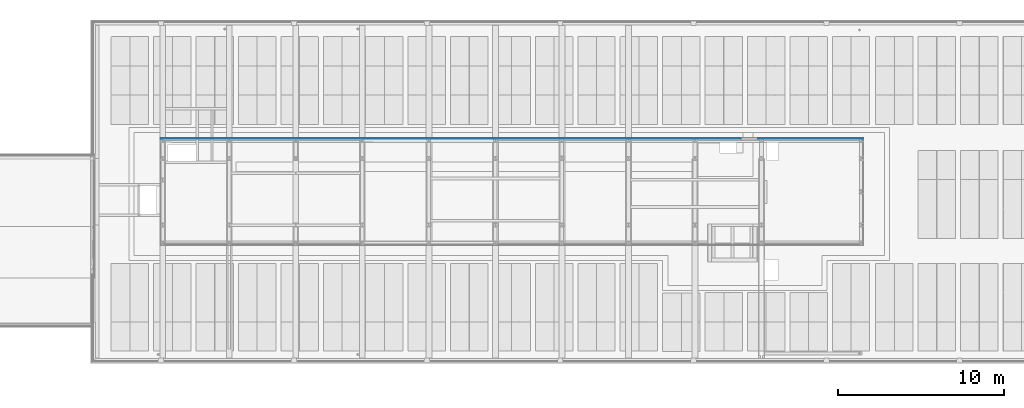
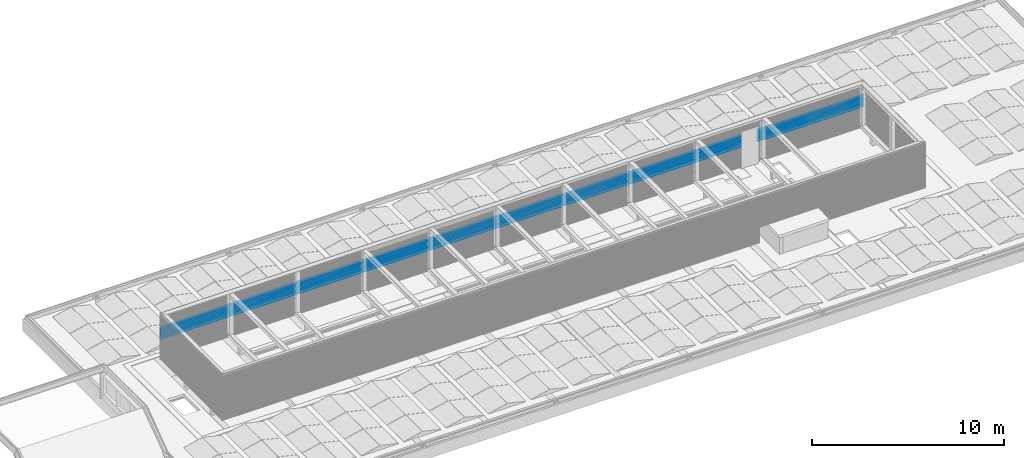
# One storey, part 47 of 63: 9 building element parts, 1 opening, 1 element without a shape of its own.
"""IFC2X3 building model written with IfcOpenShell, lengths in millimetres."""

from ifc_helpers import new_model, entity, si_unit, converted_unit, derived_unit, money_unit, direction, frame, origin_with_axes, place, context, subcontext, project, spatial, faceted_brep, material, type_object, element, aggregate, save


model = new_model("IFC2X3")

# Units and contexts
model_context = context("Model", 3, precision=0.01, world=origin_with_axes(), true_north=direction((0.0, 1.0)))
body_context = subcontext(model_context, "Body", "Model", "MODEL_VIEW")
ifc_project = project(units=[si_unit("LENGTHUNIT", "METRE", prefix="MILLI"), si_unit("AREAUNIT", "SQUARE_METRE"), si_unit("VOLUMEUNIT", "CUBIC_METRE"), converted_unit("PLANEANGLEUNIT", "DEGREE", entity("IfcPlaneAngleMeasure", 0.0174532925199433), si_unit("PLANEANGLEUNIT", "RADIAN"), dimensions=[0, 0, 0, 0, 0, 0, 0]), money_unit("EUR"), converted_unit("TIMEUNIT", "Year", entity("IfcTimeMeasure", 31557600.0), si_unit("TIMEUNIT", "SECOND"), dimensions=[0, 0, 1, 0, 0, 0, 0]), si_unit("MASSUNIT", "GRAM", prefix="KILO"), si_unit("THERMODYNAMICTEMPERATUREUNIT", "DEGREE_CELSIUS"), si_unit("LUMINOUSINTENSITYUNIT", "LUMEN"), si_unit("ENERGYUNIT", "JOULE", prefix="MEGA"), derived_unit("THERMALCONDUCTANCEUNIT", [(si_unit("POWERUNIT", "WATT"), 1), (si_unit("LENGTHUNIT", "METRE"), -1), (si_unit("THERMODYNAMICTEMPERATUREUNIT", "KELVIN"), -1)]), derived_unit("SPECIFICHEATCAPACITYUNIT", [(si_unit("ENERGYUNIT", "JOULE"), 1), (si_unit("MASSUNIT", "GRAM", prefix="KILO"), -1), (si_unit("THERMODYNAMICTEMPERATUREUNIT", "KELVIN"), -1)]), derived_unit("MASSDENSITYUNIT", [(si_unit("MASSUNIT", "GRAM", prefix="KILO"), 1), (si_unit("VOLUMEUNIT", "CUBIC_METRE"), -1)])], contexts=[model_context])

# Site, building, storey
site_placement = place(None, origin_with_axes())
site = spatial("IfcSite", under=ifc_project, at=site_placement, Name="<site naam>", CompositionType="ELEMENT")
building_placement = place(site_placement, origin_with_axes())
building = spatial("IfcBuilding", under=site, at=building_placement, Name="<Naam gebouw>", CompositionType="ELEMENT")
storey_placement = place(building_placement, frame((0.0, 0.0, 12770.0), z_axis=(0.0, 0.0, 1.0), x_axis=(1.0, 0.0, 0.0)))
storey = spatial("IfcBuildingStorey", under=building, at=storey_placement, Name="04 4e verdieping", CompositionType="ELEMENT", Elevation=12770.0)

# Wall, opening, building element parts
wall_type = type_object("IfcWallType", Name="Gevelbeplating golf 18 x 2900", PredefinedType="NOTDEFINED")
wall_placement = place(storey_placement, frame((58128.00007858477, 13218.00009009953, 299.9552842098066), z_axis=(0.0, 0.0, 1.0), x_axis=(-1.0, 0.0, 0.0)))
wall = element("IfcWall", 1, at=wall_placement, inside=storey, type_object=wall_type, Name="47_Binnenwand_Gevelbeplating")
opening_placement = place(wall_placement, frame((6856.073474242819, 0.0, -120.0392154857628), z_axis=(0.0, 0.0, 1.0), x_axis=(1.0, 0.0, 0.0)))
element("IfcOpeningElement", 2, at=opening_placement, cuts=wall, Name="47_BU-F-02_305", context=body_context, shape_type="Brep", body=[
    faceted_brep([(517.000000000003, 19.00000000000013, 2367.000000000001), (517.000000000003, 19.00000000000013, 0.0), (-517.000000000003, 19.00000000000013, 0.0), (-517.000000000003, 19.00000000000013, 2367.000000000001), (517.000000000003, -1.000078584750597, 2367.000000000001), (517.000000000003, -1.000078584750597, 0.0), (-517.000000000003, -1.000078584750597, 0.0), (-517.000000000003, -1.000078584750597, 2367.000000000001)], [[[0, 1, 2, 3]], [[4, 5, 1, 0]], [[5, 6, 2, 1]], [[6, 7, 3, 2]], [[7, 4, 0, 3]], [[6, 5, 4, 7]]]),
])
ifc_material = material(Name="gevelafwerking type 3 - Aluminium RAL1036")
building_element_part_1_placement = place(wall_placement, origin_with_axes())
building_element_part_1 = element("IfcBuildingElementPart", 3, at=building_element_part_1_placement, material=ifc_material, Name="gevelafwerking type 3 - Aluminium RAL1036", context=body_context, shape_type="Brep", body=[
    faceted_brep([(18238.00007858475, 15.62922715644, 1302.684488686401), (18238.00007858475, 10.1433027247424, 1309.962463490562), (18018.00007858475, 10.1433027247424, 1309.962463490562), (18018.00007858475, 15.62922715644, 1302.684488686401), (15.62922715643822, 15.62922715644, 1302.684488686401), (9.041547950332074, 9.041547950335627, 1311.424121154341), (42247.79067104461, 9.041547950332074, 1311.424121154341), (42247.44495090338, 9.398103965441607, 1310.951091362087), (42241.45600686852, 15.62922715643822, 1302.684488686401), (18238.00007858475, 17.99996427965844, 1291.999991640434), (18238.00007858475, 16.99996189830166, 1291.999991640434), (18238.00007858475, 14.77516137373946, 1302.365667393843), (18238.00007858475, 10.1433027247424, 1308.759048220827), (18018.00007858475, 10.1433027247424, 1308.759048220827), (18018.00007858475, 14.77516137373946, 1302.365667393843), (18018.00007858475, 16.99996189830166, 1291.999991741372), (18018.00007858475, 17.99996427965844, 1291.999991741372), (17.99996427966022, 17.99996427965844, 1292.0), (15.62922715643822, 14.54418253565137, 1302.684488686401), (9.39810396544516, 8.555216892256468, 1310.951091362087), (9.041547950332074, 8.209498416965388, 1311.424121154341), (42253.74287308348, 3.340104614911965, 1319.568190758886), (3.116442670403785, 3.116442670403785, 1319.887674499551), (42253.8120061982, 3.116442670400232, 1319.887674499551), (42253.74287308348, 2.257322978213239, 1319.568190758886), (42247.44495090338, 8.555216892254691, 1310.951091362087), (42241.22502892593, 15.69996909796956, 1302.365667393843), (42241.22502892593, 14.77516137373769, 1302.365667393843), (42239.00022979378, 17.99996427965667, 1291.999980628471), (42239.00022979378, 16.99996189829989, 1291.999980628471), (15.69996909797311, 14.77516137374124, 1302.365667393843), (17.99996427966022, 16.99996189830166, 1292.0), (3.340104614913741, 2.257322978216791, 1319.568190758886), (3.116442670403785, 2.188189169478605, 1319.887674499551), (42256.00021191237, 0.9999642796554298, 1329.999994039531), (0.9999642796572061, 0.9999642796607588, 1330.0), (42256.00021191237, -3.572034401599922e-05, 1329.999994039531), (0.9999642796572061, -3.572034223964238e-05, 1330.0)], [[[0, 1, 2, 3, 4, 5, 6, 7, 8]], [[1, 0, 9, 10, 11, 12]], [[2, 1, 12, 13]], [[3, 2, 13, 14, 15, 16]], [[3, 16, 17, 4]], [[4, 18, 19, 20, 5]], [[21, 6, 5, 22, 23]], [[7, 6, 21, 24, 25]], [[26, 8, 7, 25, 27]], [[9, 0, 8, 26, 28]], [[10, 9, 28, 29]], [[11, 10, 29, 27]], [[12, 11, 27, 25, 19, 18, 30, 14, 13]], [[15, 14, 30, 31]], [[16, 15, 31, 17]], [[17, 31, 30, 18, 4]], [[24, 32, 20, 19, 25]], [[5, 20, 32, 33, 22]], [[34, 23, 22, 35]], [[21, 23, 34, 36, 24]], [[29, 28, 26, 27]], [[36, 37, 33, 32, 24]], [[35, 22, 33, 37]], [[36, 34, 35, 37]]]),
])
building_element_part_2_placement = place(wall_placement, origin_with_axes())
building_element_part_2 = element("IfcBuildingElementPart", 4, at=building_element_part_2_placement, material=ifc_material, Name="gevelafwerking type 3 - Aluminium RAL1036", context=body_context, shape_type="Brep", body=[
    faceted_brep([(18238.00007858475, 15.6292223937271, 1454.6844886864), (18238.00007858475, 10.1433027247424, 1461.962457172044), (18018.00007858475, 10.1433027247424, 1461.962457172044), (18018.00007858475, 15.6292223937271, 1454.6844886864), (15.6292223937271, 15.62922239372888, 1454.6844886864), (9.04154318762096, 9.041543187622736, 1463.42412115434), (42247.79066342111, 9.04154318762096, 1463.42412115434), (42247.44495090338, 9.398091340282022, 1462.951101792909), (42241.45599931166, 15.62922239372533, 1454.6844886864), (18238.00007858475, 17.99995951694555, 1443.999996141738), (18238.00007858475, 16.99995713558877, 1443.999996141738), (18238.00007858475, 14.77515661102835, 1454.365677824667), (18238.00007858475, 10.1433027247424, 1460.75905207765), (18018.00007858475, 10.1433027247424, 1460.759052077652), (18018.00007858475, 14.77515661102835, 1454.365677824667), (18018.00007858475, 16.99995713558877, 1443.999996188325), (18018.00007858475, 17.99995951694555, 1443.999996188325), (17.9999595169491, 17.99995951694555, 1443.999999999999), (15.6292223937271, 14.54418532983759, 1454.6844886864), (9.39809134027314, 8.555212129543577, 1462.951101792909), (9.04154318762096, 8.209501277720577, 1463.42412115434), (42253.74287308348, 3.340092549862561, 1471.56820118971), (3.116437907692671, 3.116437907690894, 1471.887674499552), (42253.81200394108, 3.116437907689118, 1471.887674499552), (42253.74287308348, 2.257318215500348, 1471.56820118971), (42247.44495090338, 8.5552121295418, 1462.951101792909), (42241.22502892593, 15.69996202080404, 1454.365677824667), (42241.22502892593, 14.77515661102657, 1454.365677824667), (42239.00022979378, 17.99995951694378, 1443.999991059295), (42239.00022979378, 16.999957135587, 1443.999991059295), (15.69996202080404, 14.77515661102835, 1454.365677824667), (17.9999595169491, 16.99995713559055, 1443.999999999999), (3.340092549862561, 2.257318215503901, 1471.56820118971), (3.116437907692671, 2.188186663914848, 1471.887674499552), (42256.00021191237, 0.9999595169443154, 1482.000004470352), (0.9999595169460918, 0.9999595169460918, 1481.999999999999), (42256.00021191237, -4.048305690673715e-05, 1482.000004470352), (0.9999595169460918, -4.048305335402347e-05, 1481.999999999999)], [[[0, 1, 2, 3, 4, 5, 6, 7, 8]], [[1, 0, 9, 10, 11, 12]], [[2, 1, 12, 13]], [[3, 2, 13, 14, 15, 16]], [[3, 16, 17, 4]], [[4, 18, 19, 20, 5]], [[21, 6, 5, 22, 23]], [[7, 6, 21, 24, 25]], [[26, 8, 7, 25, 27]], [[9, 0, 8, 26, 28]], [[10, 9, 28, 29]], [[11, 10, 29, 27]], [[12, 11, 27, 25, 19, 18, 30, 14, 13]], [[15, 14, 30, 31]], [[16, 15, 31, 17]], [[17, 31, 30, 18, 4]], [[24, 32, 20, 19, 25]], [[5, 20, 32, 33, 22]], [[34, 23, 22, 35]], [[21, 23, 34, 36, 24]], [[29, 28, 26, 27]], [[36, 37, 33, 32, 24]], [[35, 22, 33, 37]], [[36, 34, 35, 37]]]),
])
building_element_part_3_placement = place(wall_placement, origin_with_axes())
building_element_part_3 = element("IfcBuildingElementPart", 5, at=building_element_part_3_placement, material=ifc_material, Name="gevelafwerking type 3 - Aluminium RAL1036", context=body_context, shape_type="Brep", body=[
    faceted_brep([(18238.00007858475, 15.62922001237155, 1530.684488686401), (18238.00007858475, 10.1433027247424, 1537.962454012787), (18018.00007858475, 10.1433027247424, 1537.962454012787), (18018.00007858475, 15.62922001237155, 1530.684488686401), (15.62922001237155, 15.62922001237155, 1530.684488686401), (9.041540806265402, 9.041540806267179, 1539.42412115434), (42247.79064381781, 9.041540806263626, 1539.42412115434), (42247.44495090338, 9.398068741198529, 1538.951128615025), (42241.45597987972, 15.62922001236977, 1530.684488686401), (18238.00007858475, 17.99995713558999, 1520.000007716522), (18238.00007858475, 16.99995475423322, 1520.000007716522), (18238.00007858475, 14.77515422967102, 1530.365704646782), (18238.00007858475, 10.1433027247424, 1536.759075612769), (18018.00007858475, 10.1433027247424, 1536.759075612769), (18018.00007858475, 14.77515422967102, 1530.365704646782), (18018.00007858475, 16.99995475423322, 1520.000007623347), (18018.00007858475, 17.99995713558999, 1520.000007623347), (17.99995713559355, 17.99995713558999, 1520.0), (15.62922001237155, 14.54420238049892, 1530.684488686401), (9.398068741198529, 8.55520974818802, 1538.951128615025), (9.041540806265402, 8.209518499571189, 1539.42412115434), (42253.74287308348, 3.340071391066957, 1547.568228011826), (3.116435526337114, 3.116435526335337, 1547.887674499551), (42253.81200281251, 3.116435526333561, 1547.887674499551), (42253.74287308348, 2.257315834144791, 1547.568228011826), (42247.44495090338, 8.555209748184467, 1538.951128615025), (42241.22502892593, 14.77515422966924, 1530.365704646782), (42241.22502892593, 15.69995368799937, 1530.365704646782), (42239.00022979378, 17.99995713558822, 1520.00001788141), (42239.00022979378, 16.99995475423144, 1520.00001788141), (15.69995368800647, 14.77515422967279, 1530.365704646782), (17.99995713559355, 16.99995475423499, 1520.0), (3.340071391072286, 2.257315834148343, 1547.568228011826), (3.116435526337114, 2.188190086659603, 1547.887674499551), (42256.00020723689, 0.9999571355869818, 1557.999988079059), (0.9999571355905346, 0.9999571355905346, 1558.0), (42256.00020723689, -4.286441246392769e-05, 1557.999988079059), (0.9999571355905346, -4.286440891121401e-05, 1558.0)], [[[0, 1, 2, 3, 4, 5, 6, 7, 8]], [[1, 0, 9, 10, 11, 12]], [[2, 1, 12, 13]], [[3, 2, 13, 14, 15, 16]], [[3, 16, 17, 4]], [[4, 18, 19, 20, 5]], [[21, 6, 5, 22, 23]], [[24, 25, 7, 6, 21]], [[25, 26, 27, 8, 7]], [[9, 0, 8, 27, 28]], [[10, 9, 28, 29]], [[11, 10, 29, 26]], [[12, 11, 26, 25, 19, 18, 30, 14, 13]], [[15, 14, 30, 31]], [[16, 15, 31, 17]], [[17, 31, 30, 18, 4]], [[24, 32, 20, 19, 25]], [[5, 20, 32, 33, 22]], [[34, 23, 22, 35]], [[36, 24, 21, 23, 34]], [[27, 26, 29, 28]], [[36, 37, 33, 32, 24]], [[35, 22, 33, 37]], [[36, 34, 35, 37]]]),
])
building_element_part_4_placement = place(wall_placement, origin_with_axes())
building_element_part_4 = element("IfcBuildingElementPart", 6, at=building_element_part_4_placement, material=ifc_material, Name="gevelafwerking type 3 - Aluminium RAL1036", context=body_context, shape_type="Brep", body=[
    faceted_brep([(18238.00007858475, 15.62921524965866, 1682.6844886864), (18238.00007858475, 10.1433027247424, 1689.96244769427), (18018.00007858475, 10.1433027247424, 1689.96244769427), (18018.00007858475, 15.62921524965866, 1682.6844886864), (15.62921524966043, 15.62921524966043, 1682.6844886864), (9.041536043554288, 9.041536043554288, 1691.424121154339), (42247.79066777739, 9.041536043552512, 1691.424121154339), (42247.44495090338, 9.398088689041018, 1690.951095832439), (42241.45600362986, 15.62921524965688, 1682.6844886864), (18238.00007858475, 17.9999523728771, 1671.999993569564), (18238.00007858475, 16.99994999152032, 1671.999993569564), (18238.00007858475, 14.7751494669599, 1682.365671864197), (18238.00007858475, 10.1433027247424, 1688.759036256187), (18018.00007858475, 10.1433027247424, 1688.759036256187), (18018.00007858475, 14.7751494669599, 1682.365671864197), (18018.00007858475, 16.99994999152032, 1671.999993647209), (18018.00007858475, 17.9999523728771, 1671.999993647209), (17.99995237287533, 17.99995237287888, 1671.999999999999), (15.62921524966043, 14.54417386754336, 1682.6844886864), (9.398088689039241, 8.555204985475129, 1690.951095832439), (9.041536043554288, 8.209489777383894, 1691.424121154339), (42253.74287308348, 3.340089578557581, 1699.56819522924), (3.116430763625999, 3.116430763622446, 1699.887674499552), (42253.81200523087, 3.11643076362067, 1699.887674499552), (42253.74287308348, 2.257311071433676, 1699.56819522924), (42247.44495090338, 8.555204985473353, 1690.951095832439), (42241.22502892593, 15.69995619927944, 1682.365671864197), (42241.22502892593, 14.77514946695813, 1682.365671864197), (42239.00022979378, 17.99995237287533, 1671.999985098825), (42239.00022979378, 16.99994999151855, 1671.999985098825), (15.69995619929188, 14.7751494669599, 1682.365671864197), (17.99995237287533, 16.9999499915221, 1671.999999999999), (3.340089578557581, 2.257311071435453, 1699.56819522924), (3.116430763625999, 2.188178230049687, 1699.887674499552), (42256.00021191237, 0.9999523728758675, 1709.999998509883), (0.9999523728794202, 0.9999523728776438, 1709.999999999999), (42256.00021191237, -4.762712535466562e-05, 1709.999998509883), (0.9999523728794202, -4.762712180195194e-05, 1709.999999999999)], [[[0, 1, 2, 3, 4, 5, 6, 7, 8]], [[1, 0, 9, 10, 11, 12]], [[2, 1, 12, 13]], [[3, 2, 13, 14, 15, 16]], [[3, 16, 17, 4]], [[4, 18, 19, 20, 5]], [[21, 6, 5, 22, 23]], [[7, 6, 21, 24, 25]], [[26, 8, 7, 25, 27]], [[9, 0, 8, 26, 28]], [[10, 9, 28, 29]], [[11, 10, 29, 27]], [[12, 11, 27, 25, 19, 18, 30, 14, 13]], [[15, 14, 30, 31]], [[16, 15, 31, 17]], [[17, 31, 30, 18, 4]], [[24, 32, 20, 19, 25]], [[5, 20, 32, 33, 22]], [[34, 23, 22, 35]], [[21, 23, 34, 36, 24]], [[29, 28, 26, 27]], [[36, 37, 33, 32, 24]], [[35, 22, 33, 37]], [[36, 34, 35, 37]]]),
])
building_element_part_5_placement = place(wall_placement, origin_with_axes())
building_element_part_5 = element("IfcBuildingElementPart", 7, at=building_element_part_5_placement, material=ifc_material, Name="gevelafwerking type 3 - Aluminium RAL1036", context=body_context, shape_type="Brep", body=[
    faceted_brep([(18238.00007858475, 15.62921763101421, 1606.684488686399), (18238.00007858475, 10.1433027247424, 1613.962450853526), (18018.00007858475, 10.1433027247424, 1613.962450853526), (18018.00007858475, 15.62921763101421, 1606.684488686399), (15.62921763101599, 15.62921763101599, 1606.684488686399), (9.041538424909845, 9.041538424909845, 1615.424121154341), (42247.7906557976, 9.041538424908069, 1615.424121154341), (42247.44495090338, 9.398078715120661, 1614.951112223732), (42241.45599175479, 15.62921763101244, 1606.684488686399), (18238.00007858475, 17.99995475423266, 1596.000000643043), (18238.00007858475, 16.99995237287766, 1596.000000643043), (18238.00007858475, 14.77515184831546, 1606.36568825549), (18238.00007858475, 10.1433027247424, 1612.759055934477), (18018.00007858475, 10.1433027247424, 1612.759055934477), (18018.00007858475, 14.77515184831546, 1606.36568825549), (18018.00007858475, 16.99995237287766, 1596.000000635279), (18018.00007858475, 17.99995475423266, 1596.000000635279), (17.99995475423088, 17.99995475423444, 1596.0), (15.62921763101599, 14.54418812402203, 1606.684488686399), (9.398078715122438, 8.555207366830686, 1614.951112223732), (9.041538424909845, 8.209504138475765, 1615.424121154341), (42253.74287308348, 3.340080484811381, 1623.568211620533), (3.116433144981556, 3.11643314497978, 1623.887674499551), (42253.81200168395, 3.116433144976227, 1623.887674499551), (42253.74287308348, 2.257313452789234, 1623.568211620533), (42247.44495090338, 8.55520736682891, 1614.951112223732), (42241.22502892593, 15.69995494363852, 1606.36568825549), (42241.22502892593, 14.77515184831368, 1606.36568825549), (42239.00022979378, 17.99995475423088, 1596.000001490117), (42239.00022979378, 16.99995237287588, 1596.000001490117), (15.69995494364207, 14.77515184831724, 1606.36568825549), (17.99995475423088, 16.99995237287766, 1596.0), (3.340080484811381, 2.25731345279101, 1623.568211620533), (3.116433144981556, 2.188184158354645, 1623.887674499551), (42256.00021191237, 0.9999547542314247, 1634.000014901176), (0.9999547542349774, 0.9999547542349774, 1633.999999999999), (42256.00021191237, -4.524576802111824e-05, 1634.000014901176), (0.9999547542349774, -4.52457662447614e-05, 1633.999999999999)], [[[0, 1, 2, 3, 4, 5, 6, 7, 8]], [[1, 0, 9, 10, 11, 12]], [[2, 1, 12, 13]], [[3, 2, 13, 14, 15, 16]], [[3, 16, 17, 4]], [[4, 18, 19, 20, 5]], [[21, 6, 5, 22, 23]], [[7, 6, 21, 24, 25]], [[26, 8, 7, 25, 27]], [[9, 0, 8, 26, 28]], [[10, 9, 28, 29]], [[11, 10, 29, 27]], [[12, 11, 27, 25, 19, 18, 30, 14, 13]], [[15, 14, 30, 31]], [[16, 15, 31, 17]], [[17, 31, 30, 18, 4]], [[24, 32, 20, 19, 25]], [[5, 20, 32, 33, 22]], [[34, 23, 22, 35]], [[21, 23, 34, 36, 24]], [[29, 28, 26, 27]], [[36, 37, 33, 32, 24]], [[35, 22, 33, 37]], [[36, 34, 35, 37]]]),
])
building_element_part_6_placement = place(wall_placement, origin_with_axes())
building_element_part_6 = element("IfcBuildingElementPart", 8, at=building_element_part_6_placement, material=ifc_material, Name="gevelafwerking type 3 - Aluminium RAL1036", context=body_context, shape_type="Brep", body=[
    faceted_brep([(18238.00007858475, 15.6292128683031, 1758.6844886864), (18238.00007858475, 10.1433027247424, 1765.962444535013), (18018.00007858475, 10.1433027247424, 1765.962444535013), (18018.00007858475, 15.6292128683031, 1758.6844886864), (15.62921286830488, 15.6292128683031, 1758.6844886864), (9.04153366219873, 9.04153366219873, 1767.42412115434), (42247.7906890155, 9.041533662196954, 1767.42412115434), (42247.44499411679, 9.3980660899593, 1766.951122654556), (42241.4559858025, 15.62921286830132, 1758.6844886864), (18238.00007858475, 17.99994999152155, 1748.000005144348), (18238.00007858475, 16.99994761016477, 1748.000005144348), (18238.00007858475, 14.77514708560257, 1758.365698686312), (18238.00007858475, 10.1433027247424, 1764.759059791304), (18018.00007858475, 10.1433027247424, 1764.759059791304), (18018.00007858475, 14.77514708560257, 1758.365698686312), (18018.00007858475, 16.99994761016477, 1748.000005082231), (18018.00007858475, 17.99994999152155, 1748.000005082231), (17.99994999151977, 17.99994999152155, 1747.999999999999), (15.62921286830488, 14.54419091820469, 1758.6844886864), (9.398066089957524, 8.555202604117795, 1766.951122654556), (9.04153366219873, 8.209506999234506, 1767.42412115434), (42253.74287308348, 3.340068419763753, 1775.568222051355), (3.116428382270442, 3.116428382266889, 1775.88767449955), (42253.8120041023, 3.116428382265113, 1775.88767449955), (42253.74287308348, 2.257308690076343, 1775.568222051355), (42247.44499411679, 8.555202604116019, 1766.951122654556), (42241.22502892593, 14.77514708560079, 1758.365698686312), (42241.22502892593, 15.69994786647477, 1758.365698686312), (42239.00022979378, 17.99994999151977, 1748.00001192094), (42239.00022979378, 16.99994761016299, 1748.00001192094), (15.6999478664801, 14.77514708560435, 1758.365698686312), (17.99994999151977, 16.99994761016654, 1747.999999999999), (3.3400684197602, 2.257308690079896, 1775.568222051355), (3.116428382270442, 2.188181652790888, 1775.88767449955), (42256.0002072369, 0.9999499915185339, 1785.99998211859), (0.999949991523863, 0.9999499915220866, 1786.0), (42256.0002072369, -5.000848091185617e-05, 1785.99998211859), (0.999949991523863, -5.000847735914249e-05, 1786.0)], [[[0, 1, 2, 3, 4, 5, 6, 7, 8]], [[1, 0, 9, 10, 11, 12]], [[2, 1, 12, 13]], [[3, 2, 13, 14, 15, 16]], [[3, 16, 17, 4]], [[4, 18, 19, 20, 5]], [[21, 6, 5, 22, 23]], [[24, 25, 7, 6, 21]], [[25, 26, 27, 8, 7]], [[9, 0, 8, 27, 28]], [[10, 9, 28, 29]], [[11, 10, 29, 26]], [[12, 11, 26, 25, 19, 18, 30, 14, 13]], [[15, 14, 30, 31]], [[16, 15, 31, 17]], [[17, 31, 30, 18, 4]], [[24, 32, 20, 19, 25]], [[5, 20, 32, 33, 22]], [[34, 23, 22, 35]], [[36, 24, 21, 23, 34]], [[27, 26, 29, 28]], [[36, 37, 33, 32, 24]], [[35, 22, 33, 37]], [[36, 34, 35, 37]]]),
])
building_element_part_7_placement = place(wall_placement, origin_with_axes())
building_element_part_7 = element("IfcBuildingElementPart", 9, at=building_element_part_7_placement, material=ifc_material, Name="gevelafwerking type 3 - Aluminium RAL1036", context=body_context, shape_type="Brep", body=[
    faceted_brep([(18238.00007858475, 15.62921048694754, 1910.6844886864), (18238.00007858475, 10.1433027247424, 1917.962441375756), (18018.00007858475, 10.1433027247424, 1917.962441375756), (18018.00007858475, 15.62921048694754, 1910.6844886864), (15.62921048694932, 15.62921048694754, 1910.6844886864), (9.041531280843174, 9.041531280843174, 1919.424121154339), (42247.79071297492, 9.04153128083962, 1919.424121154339), (42247.44499411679, 9.39808841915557, 1918.951089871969), (42241.45600955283, 15.62921048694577, 1910.6844886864), (18238.00007858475, 17.99994761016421, 1899.99999099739), (18238.00007858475, 16.99994522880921, 1899.99999099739), (18238.00007858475, 14.77514470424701, 1910.365665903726), (18238.00007858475, 10.1433027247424, 1916.75902372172), (18018.00007858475, 10.1433027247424, 1916.75902372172), (18018.00007858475, 14.77514470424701, 1910.365665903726), (18018.00007858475, 16.99994522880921, 1899.999991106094), (18018.00007858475, 17.99994761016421, 1899.999991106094), (17.99994761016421, 17.99994761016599, 1900.0), (15.62921048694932, 14.5441647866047, 1910.6844886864), (9.398088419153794, 8.555200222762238, 1918.951089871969), (9.041531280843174, 8.209480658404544, 1919.424121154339), (42253.74287308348, 3.340088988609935, 1927.56818926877), (3.116426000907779, 3.116426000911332, 1927.887674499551), (42253.81200652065, 3.116426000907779, 1927.887674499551), (42253.74287308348, 2.257306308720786, 1927.56818926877), (42247.44499411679, 8.555200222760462, 1918.951089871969), (42241.22502892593, 15.69995275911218, 1910.365665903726), (42241.22502892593, 14.77514470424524, 1910.365665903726), (42239.00022979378, 17.99994761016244, 1899.999979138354), (42239.00022979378, 16.99994522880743, 1899.999979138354), (15.69995275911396, 14.77514470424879, 1910.365665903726), (17.99994761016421, 16.99994522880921, 1900.0), (3.340088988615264, 2.257306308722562, 1927.56818926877), (3.116426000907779, 2.188172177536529, 1927.887674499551), (42256.00021191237, 0.9999476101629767, 1937.999992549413), (0.9999476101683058, 0.9999476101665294, 1937.999999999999), (42256.00021191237, -5.238983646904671e-05, 1937.999992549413), (0.9999476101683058, -5.238983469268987e-05, 1937.999999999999)], [[[0, 1, 2, 3, 4, 5, 6, 7, 8]], [[1, 0, 9, 10, 11, 12]], [[2, 1, 12, 13]], [[3, 2, 13, 14, 15, 16]], [[3, 16, 17, 4]], [[4, 18, 19, 20, 5]], [[21, 6, 5, 22, 23]], [[7, 6, 21, 24, 25]], [[26, 8, 7, 25, 27]], [[9, 0, 8, 26, 28]], [[10, 9, 28, 29]], [[11, 10, 29, 27]], [[12, 11, 27, 25, 19, 18, 30, 14, 13]], [[15, 14, 30, 31]], [[16, 15, 31, 17]], [[17, 31, 30, 18, 4]], [[24, 32, 20, 19, 25]], [[5, 20, 32, 33, 22]], [[34, 23, 22, 35]], [[21, 23, 34, 36, 24]], [[29, 28, 26, 27]], [[36, 37, 33, 32, 24]], [[35, 22, 33, 37]], [[36, 34, 35, 37]]]),
])
building_element_part_8_placement = place(wall_placement, origin_with_axes())
building_element_part_8 = element("IfcBuildingElementPart", 10, at=building_element_part_8_placement, material=ifc_material, Name="gevelafwerking type 3 - Aluminium RAL1036", context=body_context, shape_type="Brep", body=[
    faceted_brep([(18238.00007858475, 15.62921048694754, 1834.684488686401), (18238.00007858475, 10.1433027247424, 1841.962441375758), (18018.00007858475, 10.1433027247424, 1841.962441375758), (18018.00007858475, 15.62921048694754, 1834.684488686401), (15.62921048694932, 15.62921048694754, 1834.684488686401), (9.041531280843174, 9.041531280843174, 1843.424121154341), (42247.7907009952, 9.04153128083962, 1843.424121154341), (42247.44499411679, 9.398076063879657, 1842.951106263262), (42241.45599767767, 15.62921048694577, 1834.684488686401), (18238.00007858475, 17.99994761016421, 1823.999998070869), (18238.00007858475, 16.99994522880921, 1823.999998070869), (18238.00007858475, 14.77514470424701, 1834.365682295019), (18238.00007858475, 10.1433027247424, 1840.759040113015), (18018.00007858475, 10.1433027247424, 1840.759040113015), (18018.00007858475, 14.77514470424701, 1834.365682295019), (18018.00007858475, 16.99994522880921, 1823.999998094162), (18018.00007858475, 17.99994761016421, 1823.999998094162), (17.99994761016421, 17.99994761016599, 1824.0), (15.62921048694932, 14.54417666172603, 1834.684488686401), (9.398076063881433, 8.555200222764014, 1842.951106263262), (9.041531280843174, 8.209492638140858, 1843.424121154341), (42253.74287308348, 3.340077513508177, 1851.568205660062), (3.116426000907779, 3.116426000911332, 1851.887674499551), (42253.81200297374, 3.116426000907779, 1851.887674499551), (42253.74287308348, 2.257306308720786, 1851.568205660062), (42247.44499411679, 8.555200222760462, 1842.951106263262), (42241.22502892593, 15.6999491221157, 1834.365682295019), (42241.22502892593, 14.77514470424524, 1834.365682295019), (42239.00022979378, 17.99994761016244, 1823.999995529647), (42239.00022979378, 16.99994522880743, 1823.999995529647), (15.6999491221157, 14.77514470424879, 1834.365682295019), (17.99994761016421, 16.99994522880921, 1824.0), (3.340077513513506, 2.257306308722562, 1851.568205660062), (3.116426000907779, 2.18817572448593, 1851.887674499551), (42256.00021191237, 0.9999476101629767, 1862.000008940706), (0.9999476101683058, 0.9999476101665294, 1862.0), (42256.00021191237, -5.238983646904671e-05, 1862.000008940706), (0.9999476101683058, -5.238983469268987e-05, 1862.0)], [[[0, 1, 2, 3, 4, 5, 6, 7, 8]], [[1, 0, 9, 10, 11, 12]], [[2, 1, 12, 13]], [[3, 2, 13, 14, 15, 16]], [[3, 16, 17, 4]], [[4, 18, 19, 20, 5]], [[21, 6, 5, 22, 23]], [[7, 6, 21, 24, 25]], [[26, 8, 7, 25, 27]], [[9, 0, 8, 26, 28]], [[10, 9, 28, 29]], [[11, 10, 29, 27]], [[12, 11, 27, 25, 19, 18, 30, 14, 13]], [[15, 14, 30, 31]], [[16, 15, 31, 17]], [[17, 31, 30, 18, 4]], [[24, 32, 20, 19, 25]], [[5, 20, 32, 33, 22]], [[34, 23, 22, 35]], [[21, 23, 34, 36, 24]], [[29, 28, 26, 27]], [[36, 37, 33, 32, 24]], [[35, 22, 33, 37]], [[36, 34, 35, 37]]]),
])
building_element_part_9_placement = place(wall_placement, origin_with_axes())
building_element_part_9 = element("IfcBuildingElementPart", 11, at=building_element_part_9_placement, material=ifc_material, Name="gevelafwerking type 3 - Aluminium RAL1036", context=body_context, shape_type="Brep", body=[
    faceted_brep([(18238.00007858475, 15.62920810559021, 1986.6844886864), (18238.00007858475, 10.1433027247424, 1993.962438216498), (18018.00007858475, 10.1433027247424, 1993.962438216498), (18018.00007858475, 15.62920810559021, 1986.6844886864), (15.62920810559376, 15.62920810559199, 1986.6844886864), (9.041528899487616, 9.04152889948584, 1995.42412115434), (42247.79069337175, 9.041528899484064, 1995.42412115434), (42247.44499411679, 9.39806582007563, 1994.951116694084), (42241.45599012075, 15.62920810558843, 1986.6844886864), (18238.00007858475, 17.99994522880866, 1976.000002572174), (18238.00007858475, 16.99994284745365, 1976.000002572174), (18238.00007858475, 14.77514232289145, 1986.365692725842), (18238.00007858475, 10.1433027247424, 1992.759047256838), (18018.00007858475, 10.1433027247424, 1992.759047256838), (18018.00007858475, 14.77514232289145, 1986.365692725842), (18018.00007858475, 16.99994284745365, 1976.000002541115), (18018.00007858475, 17.99994522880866, 1976.000002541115), (17.99994522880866, 17.99994522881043, 1975.999999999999), (15.62920810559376, 14.54418183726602, 1986.6844886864), (9.398065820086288, 8.555197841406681, 1994.951116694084), (9.041528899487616, 8.209497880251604, 1995.42412115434), (42253.74287308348, 3.34006782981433, 2003.568216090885), (3.116423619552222, 3.116423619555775, 2003.88767449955), (42253.81200071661, 3.116423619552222, 2003.88767449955), (42253.74287308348, 2.257303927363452, 2003.568216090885), (42247.44499411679, 8.555197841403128, 1994.951116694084), (42241.22502892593, 15.69994442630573, 1986.365692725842), (42241.22502892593, 14.77514232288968, 1986.365692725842), (42239.00022979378, 17.99994522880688, 1976.00000596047), (42239.00022979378, 16.99994284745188, 1976.00000596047), (15.69994442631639, 14.77514232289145, 1986.365692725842), (17.99994522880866, 16.99994284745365, 1975.999999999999), (3.340067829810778, 2.257303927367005, 2003.568216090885), (3.116423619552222, 2.188175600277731, 2003.88767449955), (42256.00021191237, 0.9999452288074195, 2014.000019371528), (0.9999452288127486, 0.9999452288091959, 2013.999999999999), (42256.00021191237, -5.477119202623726e-05, 2014.000019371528), (0.9999452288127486, -5.477119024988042e-05, 2013.999999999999)], [[[0, 1, 2, 3, 4, 5, 6, 7, 8]], [[1, 0, 9, 10, 11, 12]], [[2, 1, 12, 13]], [[3, 2, 13, 14, 15, 16]], [[3, 16, 17, 4]], [[4, 18, 19, 20, 5]], [[21, 6, 5, 22, 23]], [[7, 6, 21, 24, 25]], [[26, 8, 7, 25, 27]], [[9, 0, 8, 26, 28]], [[10, 9, 28, 29]], [[11, 10, 29, 27]], [[12, 11, 27, 25, 19, 18, 30, 14, 13]], [[15, 14, 30, 31]], [[16, 15, 31, 17]], [[17, 31, 30, 18, 4]], [[24, 32, 20, 19, 25]], [[5, 20, 32, 33, 22]], [[34, 23, 22, 35]], [[21, 23, 34, 36, 24]], [[29, 28, 26, 27]], [[36, 37, 33, 32, 24]], [[35, 22, 33, 37]], [[36, 34, 35, 37]]]),
])
aggregate(wall, [building_element_part_1, building_element_part_2, building_element_part_3, building_element_part_4, building_element_part_5, building_element_part_6, building_element_part_7, building_element_part_8, building_element_part_9])

save(model, "model.ifc")
